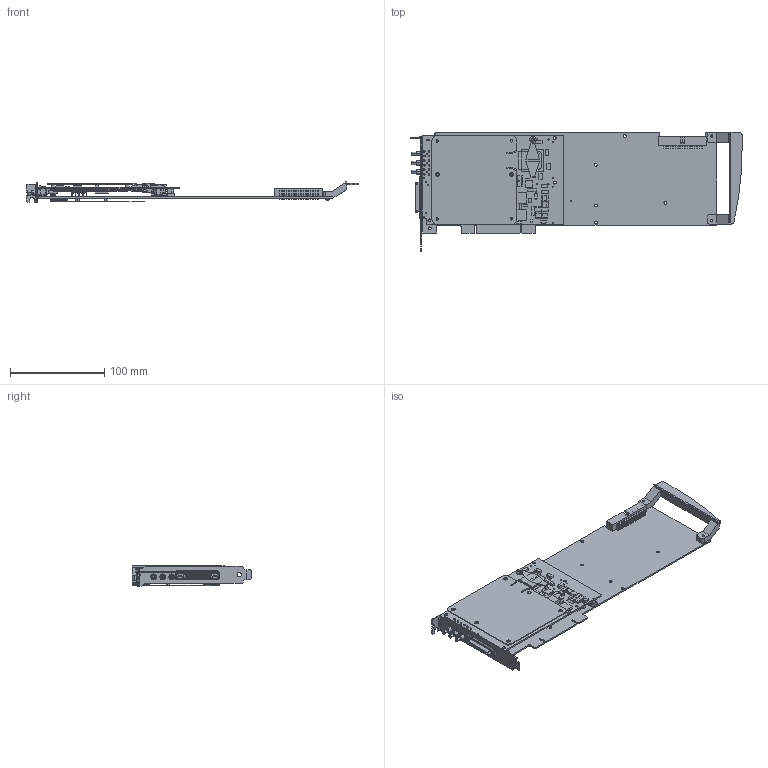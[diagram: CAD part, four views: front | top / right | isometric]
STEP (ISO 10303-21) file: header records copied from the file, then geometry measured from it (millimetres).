
FILE_DESCRIPTION((''),'2;1');
FILE_NAME('CU_PCI-654X','2009-12-28T',('jjorden'),(''),'PRO/ENGINEER BY PARAMETRIC TECHNOLOGY CORPORATION, 2006080','PRO/ENGINEER BY PARAMETRIC TECHNOLOGY CORPORATION, 2006080','');
FILE_SCHEMA(('CONFIG_CONTROL_DESIGN'));
Products named in the file (1): CU_PCI-654X
Bounding box: 352.34 x 126.37 x 22.08 mm (x, y, z)
Volume: 113786.3 mm3; surface area: 147795.7 mm2
Topology: 2 solids, 18 shells, 3986 faces, 10941 edges, 7102 vertices
Faces by surface type: plane 2898, cylinder 893, bspline 75, torus 58, cone 42, sphere 20
Entity records: 130644 total; most frequent: CARTESIAN_POINT 27035, ORIENTED_EDGE 21790, DIRECTION 20519, EDGE_CURVE 10895, VECTOR 8691, LINE 8691, VERTEX_POINT 7159, AXIS2_PLACEMENT_3D 5914
